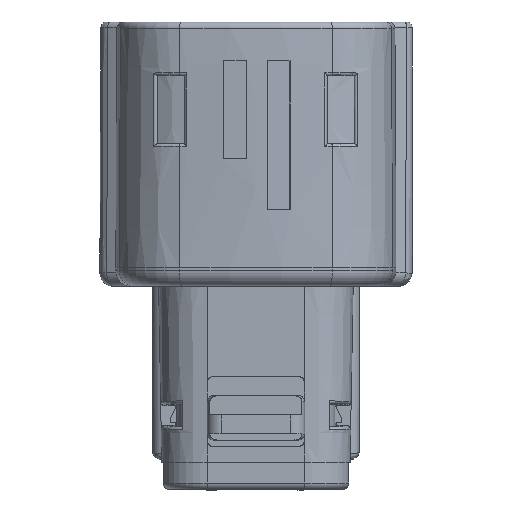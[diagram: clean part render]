
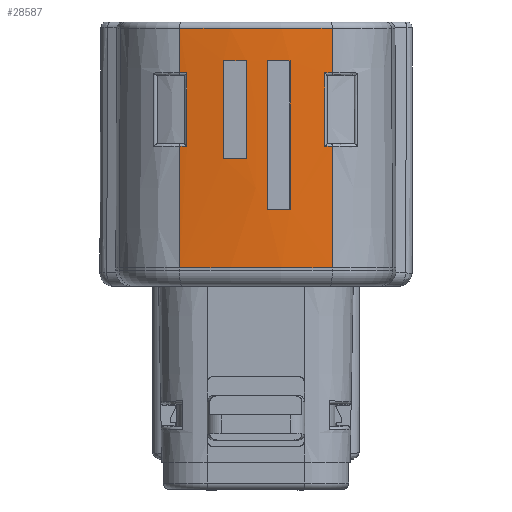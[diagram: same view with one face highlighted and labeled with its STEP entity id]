
A CAD part, front view. The second image highlights one B-rep face of the part: STEP entity #28587.
In plain terms, the highlighted conical face has half-angle 0.25 degrees and reference radius 36.4 mm.
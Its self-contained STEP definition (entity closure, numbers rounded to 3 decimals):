
#6143=CARTESIAN_POINT('',(0.,28.368,-17.195));
#6144=DIRECTION('',(0.,0.,1.));
#6145=DIRECTION('',(-0.166,-0.986,0.));
#6146=AXIS2_PLACEMENT_3D('',#6143,#6144,#6145);
#6333=CARTESIAN_POINT('',(-5.452,-7.621,
-7.591));
#6335=CARTESIAN_POINT('',(0.,28.368,
-7.591));
#6336=DIRECTION('',(0.,0.,-1.));
#6337=DIRECTION('',(-0.15,-0.989,0.));
#6338=AXIS2_PLACEMENT_3D('',#6335,#6336,#6337);
#6345=CARTESIAN_POINT('',(-5.452,-7.621,
-7.591));
#6346=CARTESIAN_POINT('',(-5.453,-7.613,
-5.652));
#6347=CARTESIAN_POINT('',(-5.452,-7.604,
-3.712));
#6348=CARTESIAN_POINT('',(-5.452,-7.596,
-1.772));
#6350=CARTESIAN_POINT('',(-5.452,-7.596,
-1.772));
#6351=CARTESIAN_POINT('',(-5.645,-7.566,
-1.772));
#6352=CARTESIAN_POINT('',(-5.838,-7.535,
-1.773));
#6353=CARTESIAN_POINT('',(-6.03,-7.503,
-1.773));
#6355=DIRECTION('',(0.001,0.004,1.));
#6356=VECTOR('',#6355,3.525);
#6357=CARTESIAN_POINT('',(-6.03,-7.503,
-1.773));
#6358=LINE('',#6357,#6356);
#6359=CARTESIAN_POINT('',(0.,28.368,
1.752));
#6360=DIRECTION('',(0.,0.,1.));
#6361=DIRECTION('',(-0.166,-0.986,0.));
#6362=AXIS2_PLACEMENT_3D('',#6359,#6360,#6361);
#6364=DIRECTION('',(0.001,-0.004,-1.));
#6365=VECTOR('',#6364,3.525);
#6366=CARTESIAN_POINT('',(6.028,-7.488,1.752));
#6367=LINE('',#6366,#6365);
#6368=CARTESIAN_POINT('',(6.03,-7.503,
-1.773));
#6369=CARTESIAN_POINT('',(5.838,-7.535,
-1.773));
#6370=CARTESIAN_POINT('',(5.646,-7.566,
-1.773));
#6371=CARTESIAN_POINT('',(5.453,-7.596,
-1.772));
#6373=CARTESIAN_POINT('',(5.453,-7.596,
-1.772));
#6374=CARTESIAN_POINT('',(5.453,-7.604,
-3.712));
#6375=CARTESIAN_POINT('',(5.453,-7.613,
-5.652));
#6376=CARTESIAN_POINT('',(5.453,-7.621,
-7.592));
#6378=CARTESIAN_POINT('',(5.453,-7.621,
-7.592));
#6379=CARTESIAN_POINT('',(5.647,-7.592,
-7.591));
#6380=CARTESIAN_POINT('',(5.841,-7.561,
-7.591));
#6381=CARTESIAN_POINT('',(6.035,-7.528,
-7.591));
#6383=DIRECTION('',(0.001,-0.004,-1.));
#6384=VECTOR('',#6383,9.605);
#6385=CARTESIAN_POINT('',(6.035,-7.528,
-7.591));
#6386=LINE('',#6385,#6384);
#6387=DIRECTION('',(0.001,0.004,1.));
#6388=VECTOR('',#6387,9.605);
#6389=CARTESIAN_POINT('',(-6.042,-7.57,
-17.195));
#6390=LINE('',#6389,#6388);
#6391=DIRECTION('',(0.,0.004,1.));
#6392=VECTOR('',#6391,11.775);
#6393=CARTESIAN_POINT('',(2.699,-7.954,
-12.587));
#6394=LINE('',#6393,#6392);
#6425=CARTESIAN_POINT('',(5.453,-7.621,
-7.592));
#6520=CARTESIAN_POINT('',(5.453,-7.596,
-1.772));
#6567=DIRECTION('',(0.,0.004,1.));
#6568=VECTOR('',#6567,11.775);
#6569=CARTESIAN_POINT('',(0.901,-8.043,
-12.587));
#6570=LINE('',#6569,#6568);
#6580=CARTESIAN_POINT('',(0.899,-7.991,
-0.812));
#6581=CARTESIAN_POINT('',(1.499,-7.976,
-0.812));
#6582=CARTESIAN_POINT('',(2.099,-7.947,
-0.812));
#6583=CARTESIAN_POINT('',(2.697,-7.902,
-0.812));
#6598=CARTESIAN_POINT('',(2.699,-7.954,
-12.587));
#6599=CARTESIAN_POINT('',(2.101,-7.998,
-12.587));
#6600=CARTESIAN_POINT('',(1.502,-8.028,
-12.587));
#6601=CARTESIAN_POINT('',(0.902,-8.043,
-12.587));
#6612=CARTESIAN_POINT('',(-2.555,-7.912,
-0.799));
#6613=CARTESIAN_POINT('',(-1.956,-7.955,
-0.799));
#6614=CARTESIAN_POINT('',(-1.356,-7.982,
-0.799));
#6615=CARTESIAN_POINT('',(-0.755,-7.994,
-0.799));
#6626=CARTESIAN_POINT('',(-0.755,-8.028,
-8.549));
#6627=CARTESIAN_POINT('',(-1.356,-8.016,
-8.549));
#6628=CARTESIAN_POINT('',(-1.956,-7.988,
-8.549));
#6629=CARTESIAN_POINT('',(-2.555,-7.946,
-8.549));
#6643=DIRECTION('',(0.,-0.004,-1.));
#6644=VECTOR('',#6643,7.75);
#6645=CARTESIAN_POINT('',(-0.755,-7.994,
-0.799));
#6646=LINE('',#6645,#6644);
#6651=DIRECTION('',(0.,0.004,1.));
#6652=VECTOR('',#6651,7.75);
#6653=CARTESIAN_POINT('',(-2.556,-7.946,
-8.549));
#6654=LINE('',#6653,#6652);
#16384=CARTESIAN_POINT('',(6.035,-7.528,
-7.59));
#16386=VERTEX_POINT('',#16384);
#16390=VERTEX_POINT('',#6425);
#16995=CARTESIAN_POINT('',(-6.03,-7.503,
-1.773));
#16997=VERTEX_POINT('',#16995);
#17124=VERTEX_POINT('',#6520);
#17139=CARTESIAN_POINT('',(6.03,-7.503,
-1.773));
#17140=VERTEX_POINT('',#17139);
#17324=CARTESIAN_POINT('',(-6.028,-7.488,
1.752));
#17325=CARTESIAN_POINT('',(6.028,-7.488,
1.752));
#17326=VERTEX_POINT('',#17324);
#17327=VERTEX_POINT('',#17325);
#17419=VERTEX_POINT('',#6333);
#17420=VERTEX_POINT('',#6348);
#17424=CARTESIAN_POINT('',(-6.035,-7.528,
-7.59));
#17426=VERTEX_POINT('',#17424);
#17464=CARTESIAN_POINT('',(6.042,-7.57,
-17.195));
#17465=VERTEX_POINT('',#17464);
#18100=CARTESIAN_POINT('',(2.699,-7.954,
-12.587));
#18101=CARTESIAN_POINT('',(2.697,-7.902,
-0.812));
#18102=VERTEX_POINT('',#18100);
#18103=VERTEX_POINT('',#18101);
#18169=CARTESIAN_POINT('',(-6.042,-7.57,
-17.195));
#18170=VERTEX_POINT('',#18169);
#18171=VERTEX_POINT('',#6580);
#18172=VERTEX_POINT('',#6601);
#18173=CARTESIAN_POINT('',(-0.755,-7.994,
-0.799));
#18174=CARTESIAN_POINT('',(-0.755,-8.028,
-8.549));
#18175=VERTEX_POINT('',#18173);
#18176=VERTEX_POINT('',#18174);
#18177=VERTEX_POINT('',#6629);
#18178=CARTESIAN_POINT('',(-2.555,-7.912,
-0.799));
#18179=VERTEX_POINT('',#18178);
#28543=CARTESIAN_POINT('',(0.,28.368,
-7.721));
#28544=DIRECTION('',(0.,0.,-1.));
#28545=DIRECTION('',(0.175,-0.985,0.));
#28546=AXIS2_PLACEMENT_3D('',#28543,#28544,#28545);
#28547=CONICAL_SURFACE('',#28546,36.4,0.25);
#28548=ORIENTED_EDGE('',*,*,#28534,.F.);
#28549=ORIENTED_EDGE('',*,*,#28480,.T.);
#28550=ORIENTED_EDGE('',*,*,#28467,.T.);
#28551=ORIENTED_EDGE('',*,*,#28370,.T.);
#28552=ORIENTED_EDGE('',*,*,#26683,.T.);
#28554=ORIENTED_EDGE('',*,*,#28553,.T.);
#28556=ORIENTED_EDGE('',*,*,#28555,.T.);
#28558=ORIENTED_EDGE('',*,*,#28557,.T.);
#28560=ORIENTED_EDGE('',*,*,#28559,.T.);
#28562=ORIENTED_EDGE('',*,*,#28561,.T.);
#28563=ORIENTED_EDGE('',*,*,#28291,.F.);
#28564=ORIENTED_EDGE('',*,*,#28365,.T.);
#28565=EDGE_LOOP('',(#28548,#28549,#28550,#28551,#28552,#28554,#28556,#28558,
#28560,#28562,#28563,#28564));
#28566=FACE_OUTER_BOUND('',#28565,.F.);
#28568=ORIENTED_EDGE('',*,*,#28567,.F.);
#28570=ORIENTED_EDGE('',*,*,#28569,.F.);
#28572=ORIENTED_EDGE('',*,*,#28571,.T.);
#28574=ORIENTED_EDGE('',*,*,#28573,.F.);
#28575=EDGE_LOOP('',(#28568,#28570,#28572,#28574));
#28576=FACE_BOUND('',#28575,.F.);
#28578=ORIENTED_EDGE('',*,*,#28577,.F.);
#28580=ORIENTED_EDGE('',*,*,#28579,.F.);
#28582=ORIENTED_EDGE('',*,*,#28581,.F.);
#28584=ORIENTED_EDGE('',*,*,#28583,.F.);
#28585=EDGE_LOOP('',(#28578,#28580,#28582,#28584));
#28586=FACE_BOUND('',#28585,.F.);
#28587=ADVANCED_FACE('',(#28566,#28576,#28586),#28547,.T.);
#6147=CIRCLE('',#6146,36.442);
#6339=CIRCLE('',#6338,36.4);
#6349=B_SPLINE_CURVE_WITH_KNOTS('',3,(#6345,#6346,#6347,#6348),.UNSPECIFIED.,
.F.,.F.,(4,4),(0.,1.),.UNSPECIFIED.);
#6354=B_SPLINE_CURVE_WITH_KNOTS('',3,(#6350,#6351,#6352,#6353),.UNSPECIFIED.,
.F.,.F.,(4,4),(0.,1.),.UNSPECIFIED.);
#6363=CIRCLE('',#6362,36.359);
#6372=B_SPLINE_CURVE_WITH_KNOTS('',3,(#6368,#6369,#6370,#6371),.UNSPECIFIED.,
.F.,.F.,(4,4),(0.,1.),.UNSPECIFIED.);
#6377=B_SPLINE_CURVE_WITH_KNOTS('',3,(#6373,#6374,#6375,#6376),.UNSPECIFIED.,
.F.,.F.,(4,4),(0.,1.),.UNSPECIFIED.);
#6382=B_SPLINE_CURVE_WITH_KNOTS('',3,(#6378,#6379,#6380,#6381),.UNSPECIFIED.,
.F.,.F.,(4,4),(0.,1.),.UNSPECIFIED.);
#6584=B_SPLINE_CURVE_WITH_KNOTS('',3,(#6580,#6581,#6582,#6583),.UNSPECIFIED.,
.F.,.F.,(4,4),(0.,1.),.UNSPECIFIED.);
#6602=B_SPLINE_CURVE_WITH_KNOTS('',3,(#6598,#6599,#6600,#6601),.UNSPECIFIED.,
.F.,.F.,(4,4),(0.,1.),.UNSPECIFIED.);
#6616=B_SPLINE_CURVE_WITH_KNOTS('',3,(#6612,#6613,#6614,#6615),.UNSPECIFIED.,
.F.,.F.,(4,4),(0.,1.),.UNSPECIFIED.);
#6630=B_SPLINE_CURVE_WITH_KNOTS('',3,(#6626,#6627,#6628,#6629),.UNSPECIFIED.,
.F.,.F.,(4,4),(0.,1.),.UNSPECIFIED.);
#26683=EDGE_CURVE('',#17326,#17327,#6363,.T.);
#28291=EDGE_CURVE('',#18170,#17465,#6147,.T.);
#28365=EDGE_CURVE('',#18170,#17426,#6390,.T.);
#28370=EDGE_CURVE('',#16997,#17326,#6358,.T.);
#28467=EDGE_CURVE('',#17420,#16997,#6354,.T.);
#28480=EDGE_CURVE('',#17419,#17420,#6349,.T.);
#28534=EDGE_CURVE('',#17419,#17426,#6339,.T.);
#28553=EDGE_CURVE('',#17327,#17140,#6367,.T.);
#28555=EDGE_CURVE('',#17140,#17124,#6372,.T.);
#28557=EDGE_CURVE('',#17124,#16390,#6377,.T.);
#28559=EDGE_CURVE('',#16390,#16386,#6382,.T.);
#28561=EDGE_CURVE('',#16386,#17465,#6386,.T.);
#28567=EDGE_CURVE('',#18172,#18171,#6570,.T.);
#28569=EDGE_CURVE('',#18102,#18172,#6602,.T.);
#28571=EDGE_CURVE('',#18102,#18103,#6394,.T.);
#28573=EDGE_CURVE('',#18171,#18103,#6584,.T.);
#28577=EDGE_CURVE('',#18179,#18175,#6616,.T.);
#28579=EDGE_CURVE('',#18177,#18179,#6654,.T.);
#28581=EDGE_CURVE('',#18176,#18177,#6630,.T.);
#28583=EDGE_CURVE('',#18175,#18176,#6646,.T.);
